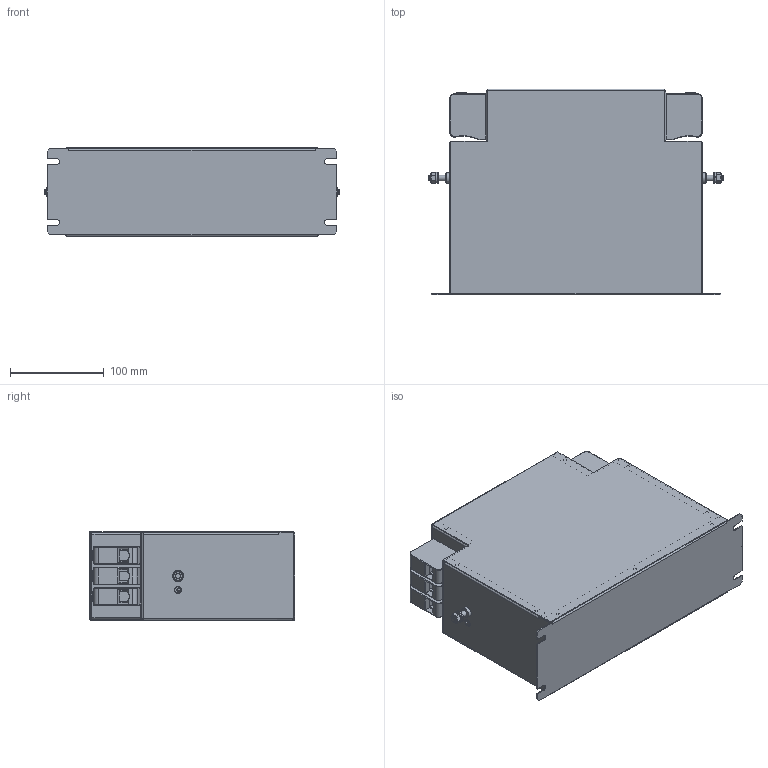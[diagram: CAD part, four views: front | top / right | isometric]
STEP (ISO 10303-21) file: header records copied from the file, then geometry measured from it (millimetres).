
FILE_DESCRIPTION(/* description */ ('raw material description'),/* implementation_level */ '2;1');
FILE_NAME(/* name */ 'C:\Users\Oliver.Volic\OneDrive - Schaffner EMV AG\Projekte\STEP\Wanda\FN3288IT-80-34.stp',/* time_stamp */ '2018-06-28T11:18:04+02:00',/* author */ ('Oliver.Volic'),/* organization */ ('Schaffner EMV AG'),/* preprocessor_version */ 'ST-DEVELOPER v16.5',/* originating_system */ 'Autodesk Inventor 2017',/* authorisation */ '');
FILE_SCHEMA (('AUTOMOTIVE_DESIGN { 1 0 10303 214 3 1 1 }'));
Length unit declared in the file: millimetre
Products named in the file (1): FN3288IT-80-34.
Bounding box: 314.4 x 220.05 x 95 mm (x, y, z)
Volume: 482965.7 mm3; surface area: 459884.3 mm2
Topology: 1 solids, 1 shells, 1554 faces, 3704 edges, 2112 vertices
Faces by surface type: plane 743, cylinder 513, sphere 120, bspline 90, torus 66, cone 22
Full cylindrical faces by diameter (mm): 3.3 x13, 4.82 x4, 5.459 x2, 6 x4, 6.4 x2, 7 x8, 8 x4, 8.7 x2, 11.05 x2, 11.6 x6, 12 x2
Entity records: 46342 total; most frequent: CARTESIAN_POINT 9655, DIRECTION 7528, ORIENTED_EDGE 7038, EDGE_CURVE 3511, AXIS2_PLACEMENT_3D 2684, LINE 2160, VECTOR 2160, VERTEX_POINT 2098
